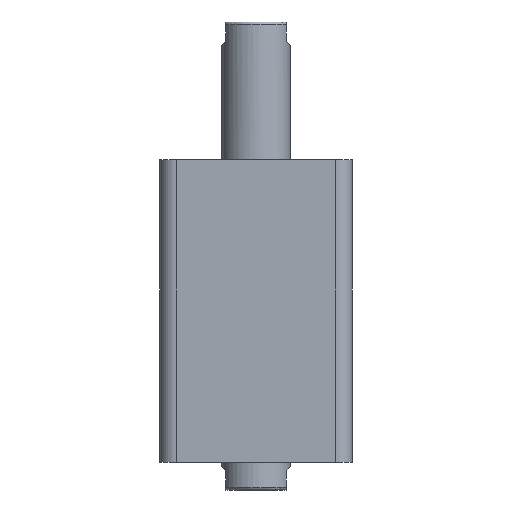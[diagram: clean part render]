
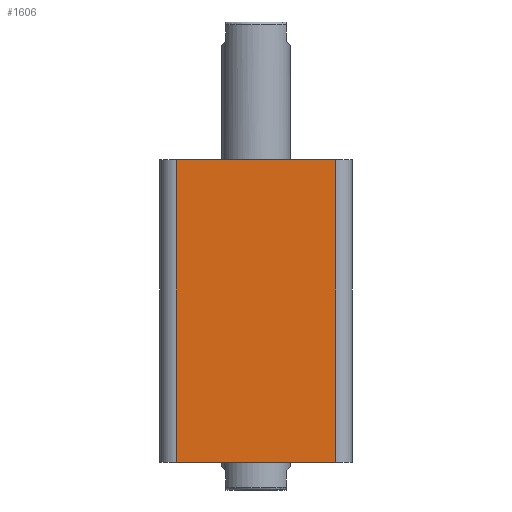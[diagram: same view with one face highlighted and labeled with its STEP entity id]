
A CAD part, front view. The second image highlights one B-rep face of the part: STEP entity #1606.
In plain terms, the highlighted planar face has unit normal (0, -1, 0).
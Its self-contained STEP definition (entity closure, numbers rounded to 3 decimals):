
#366 = LINE ( 'NONE', #3075, #379 ) ;
#372 = LINE ( 'NONE', #3085, #375 ) ;
#374 = LINE ( 'NONE', #3087, #377 ) ;
#375 = VECTOR ( 'NONE', #3086, 1000. ) ;
#377 = VECTOR ( 'NONE', #3088, 1000. ) ;
#378 = LINE ( 'NONE', #3090, #381 ) ;
#379 = VECTOR ( 'NONE', #3089, 1000. ) ;
#381 = VECTOR ( 'NONE', #3091, 1000. ) ;
#718 = VERTEX_POINT ( 'NONE', #986 ) ;
#752 = AXIS2_PLACEMENT_3D ( 'NONE', #2802, #2806, #2807 ) ;
#940 = VERTEX_POINT ( 'NONE', #1006 ) ;
#986 = CARTESIAN_POINT ( 'NONE',  ( -29., -35., 110. ) ) ;
#1006 = CARTESIAN_POINT ( 'NONE',  ( 29., -35., 110. ) ) ;
#1443 = FACE_OUTER_BOUND ( 'NONE', #2141, .T. ) ;
#1606 = ADVANCED_FACE ( 'NONE', ( #1443 ), #2804, .F. ) ;
#1936 = ORIENTED_EDGE ( 'NONE', *, *, #2537, .F. ) ;
#1937 = ORIENTED_EDGE ( 'NONE', *, *, #2538, .T. ) ;
#1938 = ORIENTED_EDGE ( 'NONE', *, *, #2539, .T. ) ;
#1939 = ORIENTED_EDGE ( 'NONE', *, *, #2540, .T. ) ;
#2141 = EDGE_LOOP ( 'NONE', ( #1936, #1937, #1938, #1939 ) ) ;
#2201 = VERTEX_POINT ( 'NONE', #2942 ) ;
#2208 = VERTEX_POINT ( 'NONE', #2953 ) ;
#2537 = EDGE_CURVE ( 'NONE', #718, #940, #372, .T. ) ;
#2538 = EDGE_CURVE ( 'NONE', #718, #2208, #374, .T. ) ;
#2539 = EDGE_CURVE ( 'NONE', #2208, #2201, #366, .T. ) ;
#2540 = EDGE_CURVE ( 'NONE', #2201, #940, #378, .T. ) ;
#2802 = CARTESIAN_POINT ( 'NONE',  ( -35., -35., 110. ) ) ;
#2804 = PLANE ( 'NONE',  #752 ) ;
#2806 = DIRECTION ( 'NONE',  ( 0., 1., 0. ) ) ;
#2807 = DIRECTION ( 'NONE',  ( 0., 0., 1. ) ) ;
#2942 = CARTESIAN_POINT ( 'NONE',  ( 29., -35., 0. ) ) ;
#2953 = CARTESIAN_POINT ( 'NONE',  ( -29., -35., 0. ) ) ;
#3075 = CARTESIAN_POINT ( 'NONE',  ( -35., -35., 0. ) ) ;
#3085 = CARTESIAN_POINT ( 'NONE',  ( -35., -35., 110. ) ) ;
#3086 = DIRECTION ( 'NONE',  ( 1., 0., 0. ) ) ;
#3087 = CARTESIAN_POINT ( 'NONE',  ( -29., -35., 110. ) ) ;
#3088 = DIRECTION ( 'NONE',  ( 0., 0., -1. ) ) ;
#3089 = DIRECTION ( 'NONE',  ( 1., 0., 0. ) ) ;
#3090 = CARTESIAN_POINT ( 'NONE',  ( 29., -35., 110. ) ) ;
#3091 = DIRECTION ( 'NONE',  ( 0., 0., 1. ) ) ;
